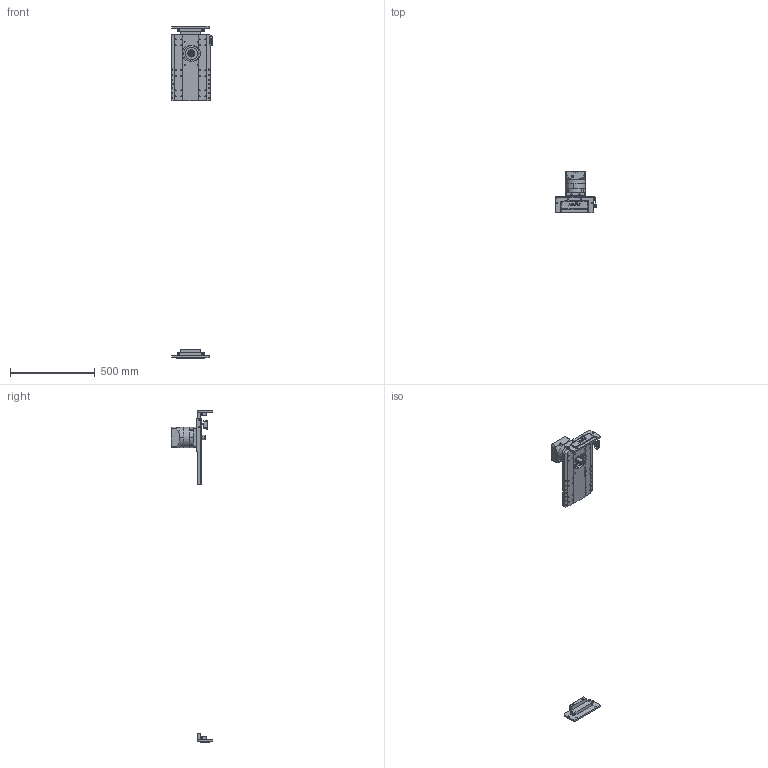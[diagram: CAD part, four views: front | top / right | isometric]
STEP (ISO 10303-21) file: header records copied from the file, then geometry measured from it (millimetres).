
FILE_DESCRIPTION (( 'STEP AP203' ), '1' );
FILE_NAME ('RY220-C-300-UK.SLDASM_1450.step', '2022-08-01T05:59:21', ( '' ), ( '' ), 'SwSTEP 2.0', 'SolidWorks 2016', '' );
FILE_SCHEMA (( 'CONFIG_CONTROL_DESIGN' ));
Length unit declared in the file: millimetre
Products named in the file (10): RY220菁釱MK-300_1450; 滅袉蝶輸ㄗG412隅秶ㄘ; RY220-C-300-UK.SLDASM_1450; RY220喘沭賑輸; RY220-齿条模组电机安装板; PF115L1-S2-22-58-110-145-M8; RY220喘沭綴裔啣; RY220喘沭俋离覜茼え; 覜茼ん674; RY140直线电机感应器674光电安装座
Assembly tree (12 placements, depth 2):
  RY220-C-300-UK.SLDASM_1450
    RY220菁釱MK-300_1450
    RY220喘沭賑輸
    RY220-齿条模组电机安装板
    PF115L1-S2-22-58-110-145-M8
    RY220喘沭綴裔啣  x2
    滅袉蝶輸ㄗG412隅秶ㄘ  x2
    RY140直线电机感应器674光电安装座
    覜茼ん674  x2
    RY220喘沭俋离覜茼え
Bounding box: 247 x 244 x 1959 mm (x, y, z)
Volume: 4410470.2 mm3; surface area: 668229.7 mm2
Topology: 17 solids, 25 shells, 1382 faces, 3603 edges, 2355 vertices
Faces by surface type: plane 637, cylinder 553, bspline 162, cone 30
Entity records: 65533 total; most frequent: CARTESIAN_POINT 17980, DIRECTION 9735, ORIENTED_EDGE 9618, EDGE_CURVE 4809, AXIS2_PLACEMENT_3D 3701, VERTEX_POINT 3144, EDGE_LOOP 2365, LINE 2333
